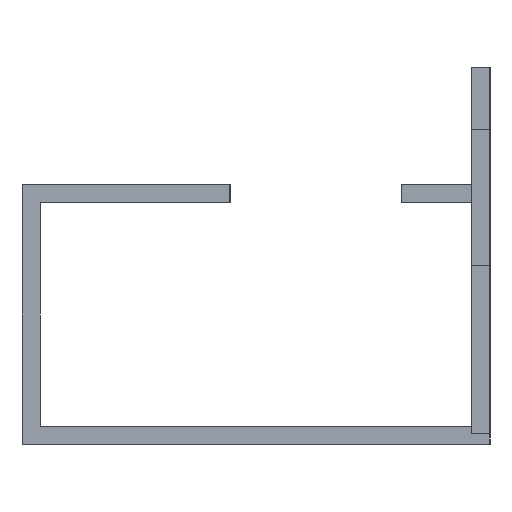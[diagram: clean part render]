
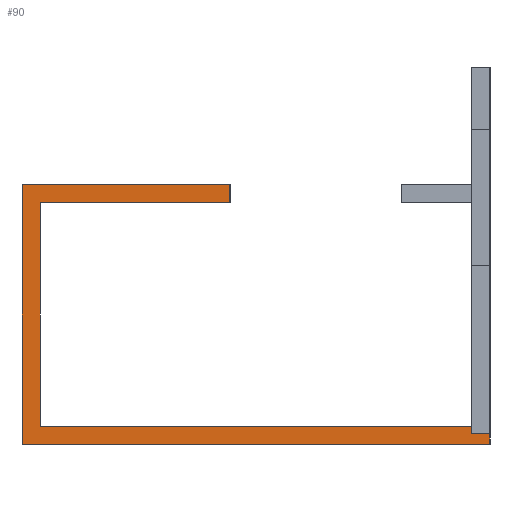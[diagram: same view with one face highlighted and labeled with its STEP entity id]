
A CAD part, left-side view. The second image highlights one B-rep face of the part: STEP entity #90.
In plain terms, the highlighted planar face has unit normal (-1, 0, 0).
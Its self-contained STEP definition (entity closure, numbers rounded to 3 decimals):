
#90 = ADVANCED_FACE( '', ( #195 ), #196, .F. );
#195 = FACE_OUTER_BOUND( '', #308, .T. );
#196 = PLANE( '', #309 );
#308 = EDGE_LOOP( '', ( #537, #538, #539, #540, #541, #542, #543, #544, #545, #546 ) );
#309 = AXIS2_PLACEMENT_3D( '', #547, #548, #549 );
#537 = ORIENTED_EDGE( '', *, *, #784, .F. );
#538 = ORIENTED_EDGE( '', *, *, #713, .T. );
#539 = ORIENTED_EDGE( '', *, *, #789, .F. );
#540 = ORIENTED_EDGE( '', *, *, #774, .F. );
#541 = ORIENTED_EDGE( '', *, *, #790, .F. );
#542 = ORIENTED_EDGE( '', *, *, #791, .F. );
#543 = ORIENTED_EDGE( '', *, *, #742, .F. );
#544 = ORIENTED_EDGE( '', *, *, #778, .F. );
#545 = ORIENTED_EDGE( '', *, *, #738, .F. );
#546 = ORIENTED_EDGE( '', *, *, #762, .F. );
#547 = CARTESIAN_POINT( '', ( -514.5, 0., 0. ) );
#548 = DIRECTION( '', ( 1., 0., 0. ) );
#549 = DIRECTION( '', ( 0., 0., -1. ) );
#713 = EDGE_CURVE( '', #862, #860, #863, .T. );
#738 = EDGE_CURVE( '', #906, #907, #908, .T. );
#742 = EDGE_CURVE( '', #912, #913, #914, .T. );
#762 = EDGE_CURVE( '', #945, #906, #947, .T. );
#774 = EDGE_CURVE( '', #963, #964, #965, .T. );
#778 = EDGE_CURVE( '', #907, #912, #969, .T. );
#784 = EDGE_CURVE( '', #862, #945, #975, .T. );
#789 = EDGE_CURVE( '', #964, #860, #980, .T. );
#790 = EDGE_CURVE( '', #981, #963, #982, .T. );
#791 = EDGE_CURVE( '', #913, #981, #983, .T. );
#860 = VERTEX_POINT( '', #1072 );
#862 = VERTEX_POINT( '', #1075 );
#863 = LINE( '', #1076, #1077 );
#906 = VERTEX_POINT( '', #1138 );
#907 = VERTEX_POINT( '', #1139 );
#908 = LINE( '', #1140, #1141 );
#912 = VERTEX_POINT( '', #1147 );
#913 = VERTEX_POINT( '', #1148 );
#914 = LINE( '', #1149, #1150 );
#945 = VERTEX_POINT( '', #1196 );
#947 = LINE( '', #1199, #1200 );
#963 = VERTEX_POINT( '', #1221 );
#964 = VERTEX_POINT( '', #1222 );
#965 = LINE( '', #1223, #1224 );
#969 = LINE( '', #1230, #1231 );
#975 = LINE( '', #1240, #1241 );
#980 = LINE( '', #1248, #1249 );
#981 = VERTEX_POINT( '', #1250 );
#982 = LINE( '', #1251, #1252 );
#983 = LINE( '', #1253, #1254 );
#1072 = CARTESIAN_POINT( '', ( -514.5, 1.75, 1.75 ) );
#1075 = CARTESIAN_POINT( '', ( -514.5, 1.75, 1.05 ) );
#1076 = CARTESIAN_POINT( '', ( -514.5, 1.75, 0. ) );
#1077 = VECTOR( '', #1315, 1000. );
#1138 = CARTESIAN_POINT( '', ( -514.5, 0., 0. ) );
#1139 = CARTESIAN_POINT( '', ( -514.5, 45., 0. ) );
#1140 = CARTESIAN_POINT( '', ( -514.5, 0., 0. ) );
#1141 = VECTOR( '', #1346, 1000. );
#1147 = CARTESIAN_POINT( '', ( -514.5, 45., 25. ) );
#1148 = CARTESIAN_POINT( '', ( -514.5, 25., 25. ) );
#1149 = CARTESIAN_POINT( '', ( -514.5, 45., 25. ) );
#1150 = VECTOR( '', #1349, 1000. );
#1196 = CARTESIAN_POINT( '', ( -514.5, 0., 1.05 ) );
#1199 = CARTESIAN_POINT( '', ( -514.5, 0., 25. ) );
#1200 = VECTOR( '', #1369, 1000. );
#1221 = CARTESIAN_POINT( '', ( -514.5, 43.25, 23.25 ) );
#1222 = CARTESIAN_POINT( '', ( -514.5, 43.25, 1.75 ) );
#1223 = CARTESIAN_POINT( '', ( -514.5, 43.25, 23.25 ) );
#1224 = VECTOR( '', #1384, 1000. );
#1230 = CARTESIAN_POINT( '', ( -514.5, 45., 0. ) );
#1231 = VECTOR( '', #1387, 1000. );
#1240 = CARTESIAN_POINT( '', ( -514.5, 1.75, 1.05 ) );
#1241 = VECTOR( '', #1391, 1000. );
#1248 = CARTESIAN_POINT( '', ( -514.5, 43.25, 1.75 ) );
#1249 = VECTOR( '', #1394, 1000. );
#1250 = CARTESIAN_POINT( '', ( -514.5, 25., 23.25 ) );
#1251 = CARTESIAN_POINT( '', ( -514.5, 25., 23.25 ) );
#1252 = VECTOR( '', #1395, 1000. );
#1253 = CARTESIAN_POINT( '', ( -514.5, 25., 25. ) );
#1254 = VECTOR( '', #1396, 1000. );
#1315 = DIRECTION( '', ( 0., 0., 1. ) );
#1346 = DIRECTION( '', ( 0., 1., 0. ) );
#1349 = DIRECTION( '', ( 0., -1., 0. ) );
#1369 = DIRECTION( '', ( 0., 0., -1. ) );
#1384 = DIRECTION( '', ( 0., 0., -1. ) );
#1387 = DIRECTION( '', ( 0., 0., 1. ) );
#1391 = DIRECTION( '', ( 0., -1., 0. ) );
#1394 = DIRECTION( '', ( 0., -1., 0. ) );
#1395 = DIRECTION( '', ( 0., 1., 0. ) );
#1396 = DIRECTION( '', ( 0., 0., -1. ) );
